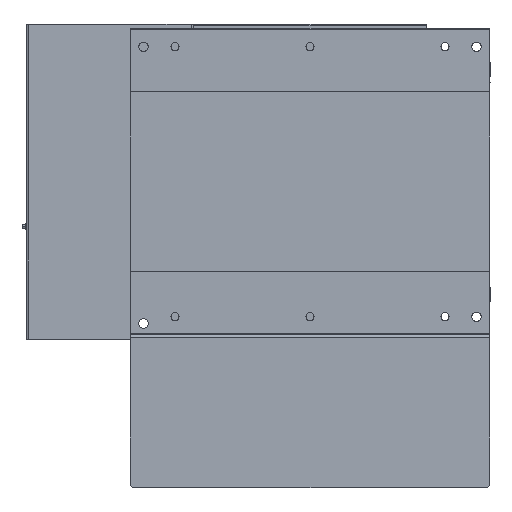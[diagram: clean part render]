
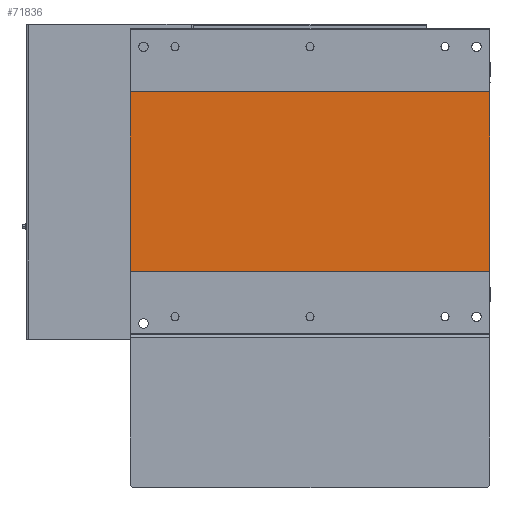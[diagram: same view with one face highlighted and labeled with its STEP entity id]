
A CAD part, front view. The second image highlights one B-rep face of the part: STEP entity #71836.
In plain terms, the highlighted planar face has unit normal (0, -1, 0).
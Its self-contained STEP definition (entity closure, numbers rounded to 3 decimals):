
#889 = CARTESIAN_POINT ( 'NONE',  ( -200., 0.5, 100. ) ) ;
#1641 = DIRECTION ( 'NONE',  ( 0., 1., 0. ) ) ;
#1731 = EDGE_CURVE ( 'NONE', #39768, #68014, #51093, .T. ) ;
#5937 = VECTOR ( 'NONE', #75873, 1000. ) ;
#14015 = CARTESIAN_POINT ( 'NONE',  ( 200., 0.5, -100. ) ) ;
#14107 = DIRECTION ( 'NONE',  ( 0., 0., -1. ) ) ;
#14353 = EDGE_CURVE ( 'NONE', #68014, #80247, #40043, .T. ) ;
#15268 = AXIS2_PLACEMENT_3D ( 'NONE', #69327, #1641, #21126 ) ;
#16050 = FACE_OUTER_BOUND ( 'NONE', #16581, .T. ) ;
#16581 = EDGE_LOOP ( 'NONE', ( #42816, #41568, #44119, #76685 ) ) ;
#16865 = CARTESIAN_POINT ( 'NONE',  ( -200., 0.5, -100. ) ) ;
#21126 = DIRECTION ( 'NONE',  ( 0., 0., -1. ) ) ;
#21232 = DIRECTION ( 'NONE',  ( 0., 0., 1. ) ) ;
#30374 = EDGE_CURVE ( 'NONE', #80247, #54028, #80977, .T. ) ;
#34508 = VECTOR ( 'NONE', #21232, 1000. ) ;
#35341 = CARTESIAN_POINT ( 'NONE',  ( -200., 0.5, 100. ) ) ;
#39768 = VERTEX_POINT ( 'NONE', #889 ) ;
#40043 = LINE ( 'NONE', #48028, #41152 ) ;
#41152 = VECTOR ( 'NONE', #14107, 1000. ) ;
#41568 = ORIENTED_EDGE ( 'NONE', *, *, #71126, .F. ) ;
#42669 = PLANE ( 'NONE',  #15268 ) ;
#42816 = ORIENTED_EDGE ( 'NONE', *, *, #1731, .F. ) ;
#44119 = ORIENTED_EDGE ( 'NONE', *, *, #30374, .F. ) ;
#48028 = CARTESIAN_POINT ( 'NONE',  ( 200., 0.5, 100. ) ) ;
#48266 = CARTESIAN_POINT ( 'NONE',  ( -200., 0.5, 100. ) ) ;
#51093 = LINE ( 'NONE', #35341, #77874 ) ;
#54028 = VERTEX_POINT ( 'NONE', #16865 ) ;
#54759 = CARTESIAN_POINT ( 'NONE',  ( 200., 0.5, 100. ) ) ;
#56424 = CARTESIAN_POINT ( 'NONE',  ( -200., 0.5, -100. ) ) ;
#68014 = VERTEX_POINT ( 'NONE', #54759 ) ;
#68881 = LINE ( 'NONE', #48266, #34508 ) ;
#69327 = CARTESIAN_POINT ( 'NONE',  ( 200., 0.5, 100. ) ) ;
#71126 = EDGE_CURVE ( 'NONE', #54028, #39768, #68881, .T. ) ;
#71836 = ADVANCED_FACE ( 'NONE', ( #16050 ), #42669, .F. ) ;
#75873 = DIRECTION ( 'NONE',  ( -1., 0., 0. ) ) ;
#76685 = ORIENTED_EDGE ( 'NONE', *, *, #14353, .F. ) ;
#77874 = VECTOR ( 'NONE', #83310, 1000. ) ;
#80247 = VERTEX_POINT ( 'NONE', #14015 ) ;
#80977 = LINE ( 'NONE', #56424, #5937 ) ;
#83310 = DIRECTION ( 'NONE',  ( 1., 0., 0. ) ) ;
